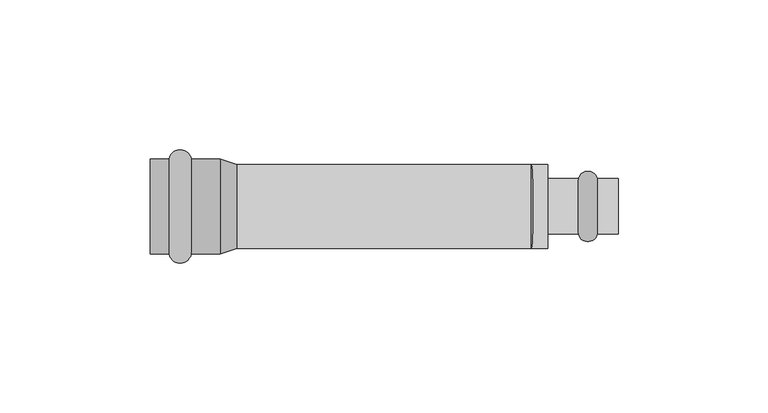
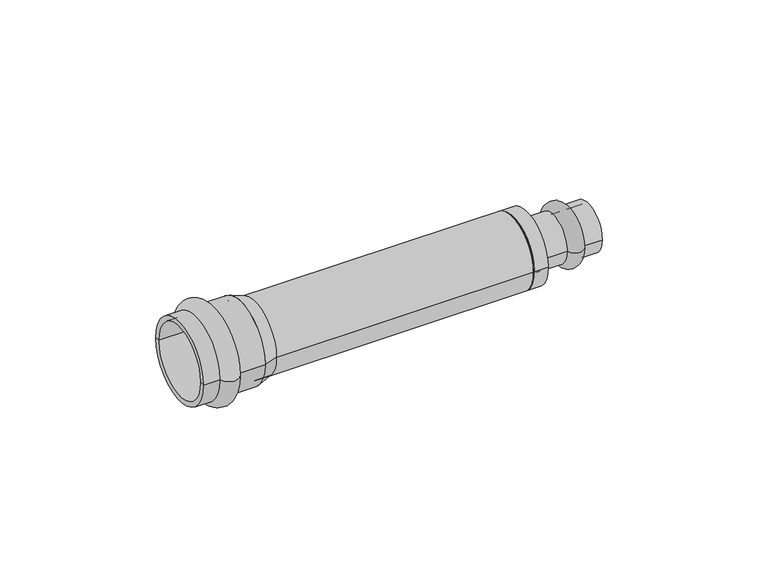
"""IFC4 building model written with IfcOpenShell, lengths in millimetres: pipe fitting geometry, VALTEC_VTi.903.I_Соединитель прямой нержавеющая сталь : VTi.903.I."""

from ifc_helpers import new_model, si_unit, point, frame, origin, origin_2d, place, context, project, spatial, polyline, circle_curve, ellipse_curve, trimmed, segment, composite_curve, outline, extrude, source, transform, mapped, element, save
from ifc_brep_helpers import plane_surface, cylinder_surface, revolved_surface, advanced_brep


def pipe_fitting_5094d8cd(model_context):
    return source(origin(), model_context, "Body", "SolidModel", [
        advanced_brep(
        [(149.1122777, 9.25, 0.0), (149.1122777, -9.25, 0.0), (142.7877223, -9.25, 0.0), (142.7877223, 9.25, 0.0), (156.0, 9.25, 0.0), (156.0, -9.25, 0.0), (156.0, 7.5, 0.0), (156.0, -7.5, 0.0), (132.6, 7.5, 0.0), (132.6, -7.5, 0.0), (132.6, 9.25, 0.0), (132.6, -9.25, 0.0)],
        [
            (0, 1, circle_curve(frame((149.1122777, 0.0, 0.0), z_axis=(-1.0, 0.0, 0.0), x_axis=(0.0, -1.0, 0.0)), 9.25)),
            (1, 2, circle_curve(frame((145.95, -8.5, 0.0), z_axis=(0.0, 0.0, -1.0), x_axis=(-1.0, 0.0, 0.0)), 3.25)),
            (2, 3, circle_curve(frame((142.7877223, 0.0, 0.0), z_axis=(1.0, 0.0, 0.0), x_axis=(0.0, -1.0, 0.0)), 9.25)),
            (3, 0, circle_curve(frame((145.95, 8.5, 0.0), z_axis=(0.0, 0.0, -1.0), x_axis=(-1.0, 0.0, 0.0)), 3.25)),
            (1, 0, circle_curve(frame((149.1122777, 0.0, 0.0), z_axis=(-1.0, 0.0, 0.0), x_axis=(0.0, -1.0, 0.0)), 9.25)),
            (3, 2, circle_curve(frame((142.7877223, 0.0, 0.0), z_axis=(1.0, 0.0, 0.0), x_axis=(0.0, -1.0, 0.0)), 9.25)),
            (4, 5, circle_curve(frame((156.0, 0.0, 0.0), z_axis=(-1.0, 0.0, 0.0), x_axis=(0.0, -1.0, 0.0)), 9.25)),
            (5, 1),
            (0, 4),
            (5, 4, circle_curve(frame((156.0, 0.0, 0.0), z_axis=(-1.0, 0.0, 0.0), x_axis=(0.0, -1.0, 0.0)), 9.25)),
            (6, 7, circle_curve(frame((156.0, 0.0, 0.0), z_axis=(-1.0, 0.0, 0.0), x_axis=(0.0, -1.0, 0.0)), 7.5)),
            (7, 5),
            (4, 6),
            (7, 6, circle_curve(frame((156.0, 0.0, 0.0), z_axis=(-1.0, 0.0, 0.0), x_axis=(0.0, -1.0, 0.0)), 7.5)),
            (8, 9, circle_curve(frame((132.6, 0.0, 0.0), z_axis=(-1.0, 0.0, 0.0), x_axis=(0.0, -1.0, 0.0)), 7.5)),
            (9, 7),
            (6, 8),
            (9, 8, circle_curve(frame((132.6, 0.0, 0.0), z_axis=(-1.0, 0.0, 0.0), x_axis=(0.0, -1.0, 0.0)), 7.5)),
            (10, 11, circle_curve(frame((132.6, 0.0, 0.0), z_axis=(-1.0, 0.0, 0.0), x_axis=(0.0, -1.0, 0.0)), 9.25)),
            (11, 9),
            (8, 10),
            (11, 10, circle_curve(frame((132.6, 0.0, 0.0), z_axis=(-1.0, 0.0, 0.0), x_axis=(0.0, -1.0, 0.0)), 9.25)),
            (2, 11),
            (10, 3),
        ],
        [
            revolved_surface(trimmed(ellipse_curve(frame((145.95, -8.5, 0.0), z_axis=(0.0, 0.0, 1.0), x_axis=(-1.0, 0.0, 0.0)), 3.25, 3.25), [point((142.7877223, -9.25, 0.0))], [point((149.1122777, -9.25, 0.0))], True, "CARTESIAN"), (159.5364426, 0.0, 0.0), (1.0, 0.0, 0.0)),
            cylinder_surface(frame((159.5364426, 0.0, 0.0), z_axis=(1.0, 0.0, 0.0), x_axis=(0.0, -1.0, 0.0)), 9.25),
            plane_surface(frame((156.0, 0.0, 0.0), z_axis=(1.0, 0.0, 0.0), x_axis=(0.0, -1.0, 0.0))),
            revolved_surface(polyline([(156.0, -7.5, 0.0), (132.6, -7.5, 0.0)]), (159.5364426, 0.0, 0.0), (1.0, 0.0, 0.0)),
            plane_surface(frame((132.6, 0.0, 0.0), z_axis=(-1.0, 0.0, 0.0), x_axis=(0.0, -1.0, 0.0))),
        ],
        [
            (0, [[1, 2, 3, 4]]),
            (0, [[5, -4, 6, -2]]),
            (1, [[7, 8, -1, 9]]),
            (1, [[10, -9, -5, -8]]),
            (2, [[11, 12, -7, 13]]),
            (2, [[14, -13, -10, -12]]),
            (3, [[15, 16, -11, 17]]),
            (3, [[18, -17, -14, -16]]),
            (4, [[19, 20, -15, 21]]),
            (4, [[22, -21, -18, -20]]),
            (1, [[-3, 23, -19, 24]]),
            (1, [[-6, -24, -22, -23]]),
        ],
    ),
        advanced_brep(
        [(6.3757654, -15.9, 0.0), (6.3757654, 15.9, 0.0), (13.7242346, 15.9, 0.0), (13.7242346, -15.9, 0.0), (0.0, -15.9, 0.0), (0.0, 15.9, 0.0), (0.0, -14.0, 0.0), (0.0, 14.0, 0.0), (23.4, -14.0, 0.0), (23.4, 14.0, 0.0), (23.4, -15.9, 0.0), (23.4, 15.9, 0.0)],
        [
            (0, 1, circle_curve(frame((6.3757654, 0.0, 0.0), z_axis=(1.0, 0.0, 0.0), x_axis=(0.0, 1.0, 0.0)), 15.9)),
            (1, 2, circle_curve(frame((10.05, 15.15, 0.0), z_axis=(0.0, 0.0, -1.0), x_axis=(1.0, 0.0, 0.0)), 3.75)),
            (2, 3, circle_curve(frame((13.7242346, 0.0, 0.0), z_axis=(-1.0, 0.0, 0.0), x_axis=(0.0, 1.0, 0.0)), 15.9)),
            (3, 0, circle_curve(frame((10.05, -15.15, 0.0), z_axis=(0.0, 0.0, -1.0), x_axis=(1.0, 0.0, 0.0)), 3.75)),
            (1, 0, circle_curve(frame((6.3757654, 0.0, 0.0), z_axis=(1.0, 0.0, 0.0), x_axis=(0.0, 1.0, 0.0)), 15.9)),
            (3, 2, circle_curve(frame((13.7242346, 0.0, 0.0), z_axis=(-1.0, 0.0, 0.0), x_axis=(0.0, 1.0, 0.0)), 15.9)),
            (4, 5, circle_curve(frame((0.0, 0.0, 0.0), z_axis=(1.0, 0.0, 0.0), x_axis=(0.0, 1.0, 0.0)), 15.9)),
            (5, 1),
            (0, 4),
            (5, 4, circle_curve(frame((0.0, 0.0, 0.0), z_axis=(1.0, 0.0, 0.0), x_axis=(0.0, 1.0, 0.0)), 15.9)),
            (6, 7, circle_curve(frame((0.0, 0.0, 0.0), z_axis=(1.0, 0.0, 0.0), x_axis=(0.0, 1.0, 0.0)), 14.0)),
            (7, 5),
            (4, 6),
            (7, 6, circle_curve(frame((0.0, 0.0, 0.0), z_axis=(1.0, 0.0, 0.0), x_axis=(0.0, 1.0, 0.0)), 14.0)),
            (8, 9, circle_curve(frame((23.4, 0.0, 0.0), z_axis=(1.0, 0.0, 0.0), x_axis=(0.0, 1.0, 0.0)), 14.0)),
            (9, 7),
            (6, 8),
            (9, 8, circle_curve(frame((23.4, 0.0, 0.0), z_axis=(1.0, 0.0, 0.0), x_axis=(0.0, 1.0, 0.0)), 14.0)),
            (10, 11, circle_curve(frame((23.4, 0.0, 0.0), z_axis=(1.0, 0.0, 0.0), x_axis=(0.0, 1.0, 0.0)), 15.9)),
            (11, 9),
            (8, 10),
            (11, 10, circle_curve(frame((23.4, 0.0, 0.0), z_axis=(1.0, 0.0, 0.0), x_axis=(0.0, 1.0, 0.0)), 15.9)),
            (2, 11),
            (10, 3),
        ],
        [
            revolved_surface(trimmed(ellipse_curve(frame((10.05, 15.15, 0.0), z_axis=(0.0, 0.0, 1.0), x_axis=(1.0, 0.0, 0.0)), 3.75, 3.75), [point((13.7242346, 15.9, 0.0))], [point((6.3757654, 15.9, 0.0))], True, "CARTESIAN"), (-3.5364426, 0.0, 0.0), (-1.0, 0.0, 0.0)),
            cylinder_surface(frame((-3.5364426, 0.0, 0.0), z_axis=(-1.0, 0.0, 0.0), x_axis=(0.0, 1.0, 0.0)), 15.9),
            plane_surface(frame((0.0, 0.0, 0.0), z_axis=(-1.0, 0.0, 0.0), x_axis=(0.0, 1.0, 0.0))),
            revolved_surface(polyline([(0.0, 14.0, 0.0), (23.4, 14.0, 0.0)]), (-3.5364426, 0.0, 0.0), (-1.0, 0.0, 0.0)),
            plane_surface(frame((23.4, 0.0, 0.0), z_axis=(1.0, 0.0, 0.0), x_axis=(0.0, 1.0, 0.0))),
        ],
        [
            (0, [[1, 2, 3, 4]]),
            (0, [[5, -4, 6, -2]]),
            (1, [[7, 8, -1, 9]]),
            (1, [[10, -9, -5, -8]]),
            (2, [[11, 12, -7, 13]]),
            (2, [[14, -13, -10, -12]]),
            (3, [[15, 16, -11, 17]]),
            (3, [[18, -17, -14, -16]]),
            (4, [[19, 20, -15, 21]]),
            (4, [[22, -21, -18, -20]]),
            (1, [[-3, 23, -19, 24]]),
            (1, [[-6, -24, -22, -23]]),
        ],
    ),
        advanced_brep(
        [(23.4, -15.9, 0.0), (23.4, 15.9, 0.0), (28.86, -14.0, 0.0), (28.86, 14.0, 0.0)],
        [
            (0, 1, circle_curve(frame((23.4, 0.0, 0.0), z_axis=(-1.0, 0.0, 0.0), x_axis=(0.0, -1.0, 0.0)), 15.9)),
            (1, 0, circle_curve(frame((23.4, 0.0, 0.0), z_axis=(-1.0, 0.0, 0.0), x_axis=(0.0, 1.0, 0.0)), 15.9)),
            (2, 3, circle_curve(frame((28.86, 0.0, 0.0), z_axis=(1.0, 0.0, 0.0), x_axis=(0.0, 1.0, 0.0)), 14.0)),
            (3, 2, circle_curve(frame((28.86, 0.0, 0.0), z_axis=(1.0, 0.0, 0.0), x_axis=(0.0, -1.0, 0.0)), 14.0)),
            (2, 0),
            (1, 3),
        ],
        [
            plane_surface(frame((23.4, 0.0, 0.0), z_axis=(-1.0, 0.0, 0.0), x_axis=(0.0, 0.0, 1.0))),
            plane_surface(frame((28.86, 0.0, 0.0), z_axis=(1.0, 0.0, 0.0), x_axis=(0.0, 0.0, 1.0))),
            revolved_surface(polyline([(28.86, -13.99999999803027, 0.0), (23.4, -15.9, 0.0)]), (69.0915789, 0.0, 0.0), (-1.0, 0.0, 0.0)),
            revolved_surface(polyline([(28.86, 13.99999999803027, 0.0), (23.4, 15.9, 0.0)]), (69.0915789, 0.0, 0.0), (-1.0, 0.0, 0.0)),
        ],
        [
            (0, [[1, 2]]),
            (1, [[3, 4]]),
            (2, [[-3, 5, -2, 6]]),
            (3, [[-4, -6, -1, -5]]),
        ],
    ),
        advanced_brep(
        [(132.6, -9.25, 0.0), (132.6, 9.25, 0.0), (127.14, -14.0, 0.0), (127.14, 14.0, 0.0)],
        [
            (0, 1, circle_curve(frame((132.6, 0.0, 0.0), z_axis=(1.0, 0.0, 0.0), x_axis=(0.0, -1.0, 0.0)), 9.25)),
            (1, 0, circle_curve(frame((132.6, 0.0, 0.0), z_axis=(1.0, 0.0, 0.0), x_axis=(0.0, 1.0, 0.0)), 9.25)),
            (2, 3, circle_curve(frame((127.14, 0.0, 0.0), z_axis=(-1.0, 0.0, 0.0), x_axis=(0.0, 1.0, 0.0)), 14.0)),
            (3, 2, circle_curve(frame((127.14, 0.0, 0.0), z_axis=(-1.0, 0.0, 0.0), x_axis=(0.0, -1.0, 0.0)), 14.0)),
            (3, 1),
            (0, 2),
        ],
        [
            plane_surface(frame((132.6, 0.0, 0.0), z_axis=(1.0, 0.0, 0.0), x_axis=(0.0, 0.0, -1.0))),
            plane_surface(frame((127.14, 0.0, 0.0), z_axis=(-1.0, 0.0, 0.0), x_axis=(0.0, 0.0, -1.0))),
            revolved_surface(polyline([(132.6, -9.250000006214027, 0.0), (127.14, -14.0, 0.0)]), (143.2326316, 0.0, 0.0), (-1.0, 0.0, 0.0)),
            revolved_surface(polyline([(132.6, 9.250000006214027, 0.0), (127.14, 14.0, 0.0)]), (143.2326316, 0.0, 0.0), (-1.0, 0.0, 0.0)),
        ],
        [
            (0, [[1, 2]]),
            (1, [[3, 4]]),
            (2, [[-4, 5, -1, 6]]),
            (3, [[-3, -6, -2, -5]]),
        ],
    ),
        extrude(outline(composite_curve([segment(trimmed(circle_curve(origin_2d(), 14.0), [point((-14.0, 0.0))], [point((14.0, 0.0))], False, "CARTESIAN"), True, "CONTINUOUS"), segment(trimmed(circle_curve(origin_2d(), 14.0), [point((14.0, 0.0))], [point((-14.0, 0.0))], False, "CARTESIAN"), True, "CONTINUOUS")], self_intersect=False)), frame((23.4, 0.0, 0.0), z_axis=(1.0, 0.0, 0.0), x_axis=(0.0, 1.0, 0.0)), (0.0, 0.0, 1.0), 109.2),
    ])


if __name__ == "__main__":
    model = new_model("IFC4")
    model_context = context("Model", 3, world=origin())
    ifc_project = project(units=[si_unit("LENGTHUNIT", "METRE", prefix="MILLI")], contexts=[model_context])
    site = spatial("IfcSite", under=ifc_project)
    building = spatial("IfcBuilding", under=site)
    placement = place(None, origin())
    pipe_fitting_shape = pipe_fitting_5094d8cd(model_context)
    element("IfcPipeFitting", 1, ObjectType="VALTEC_VTi.903.I_Соединитель прямой нержавеющая сталь : VTi.903.I", at=placement, inside=building, context=model_context, shape_type="MappedRepresentation", body=[
        mapped(pipe_fitting_shape, transform((0.0, 0.0, 0.0), x_axis=(1.0, 0.0, 0.0), y_axis=(0.0, 1.0, 0.0), z_axis=(0.0, 0.0, 1.0))),
    ])
    save(model, "model.ifc")
